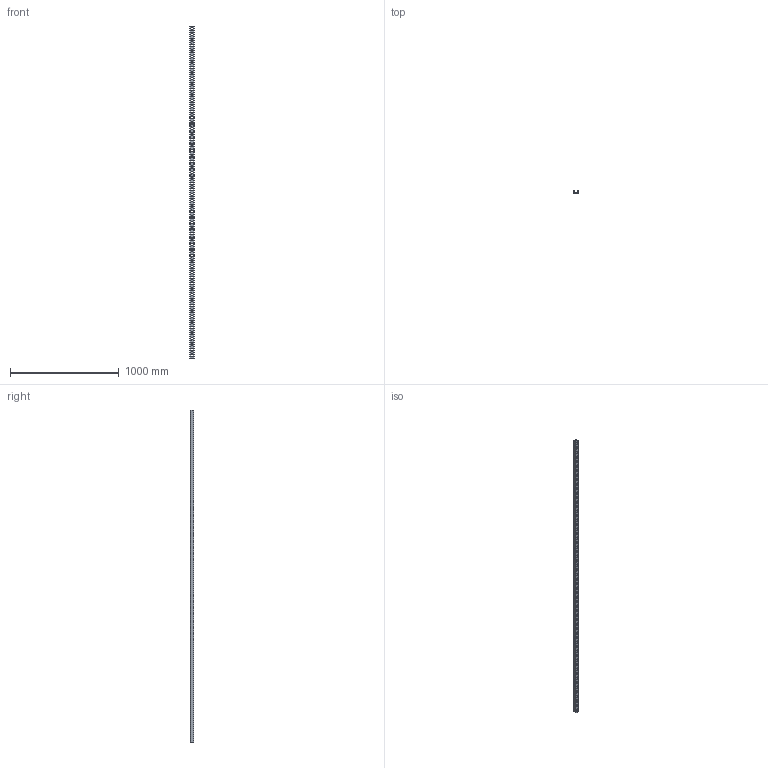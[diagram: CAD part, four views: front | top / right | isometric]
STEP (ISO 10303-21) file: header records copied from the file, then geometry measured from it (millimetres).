
FILE_DESCRIPTION(('TurboCAD Mac Pro'),'Build 980');
FILE_NAME('F20P-1200.stp',' ',(''),(''),'ACIS Interop','IMSI','TurboCAD Mac Pro BY IMSI, INCORPORATED');
FILE_SCHEMA(('automotive_design'));
Length unit declared in the file: inch
Products named in the file (1): 1
Bounding box: 38.1 x 28.58 x 3048 mm (x, y, z)
Volume: 1209415.5 mm3; surface area: 584452.8 mm2
Topology: 1 solids, 1 shells, 391 faces, 1167 edges, 778 vertices
Faces by surface type: bspline 257, plane 134
Entity records: 19733 total; most frequent: CARTESIAN_POINT 7606, ORIENTED_EDGE 2334, EDGE_CURVE 1167, DIRECTION 931, VERTEX_POINT 778, LINE 653, VECTOR 653, EDGE_LOOP 511
